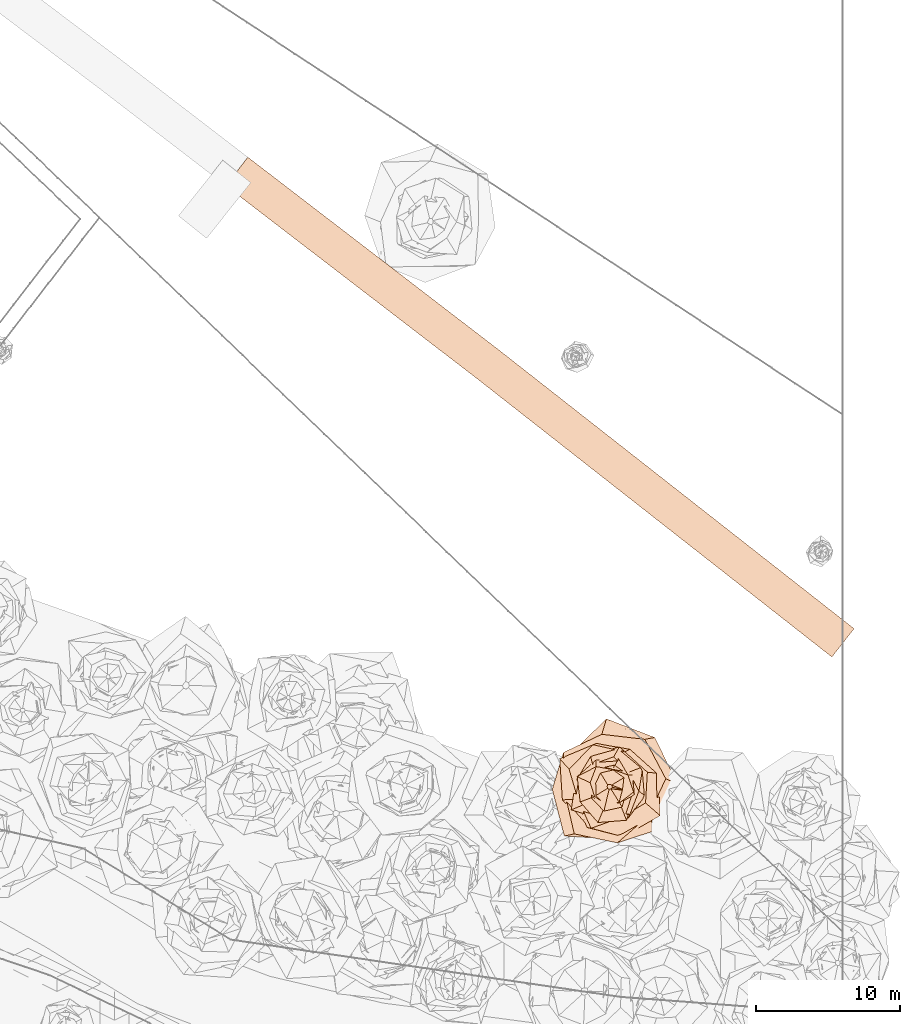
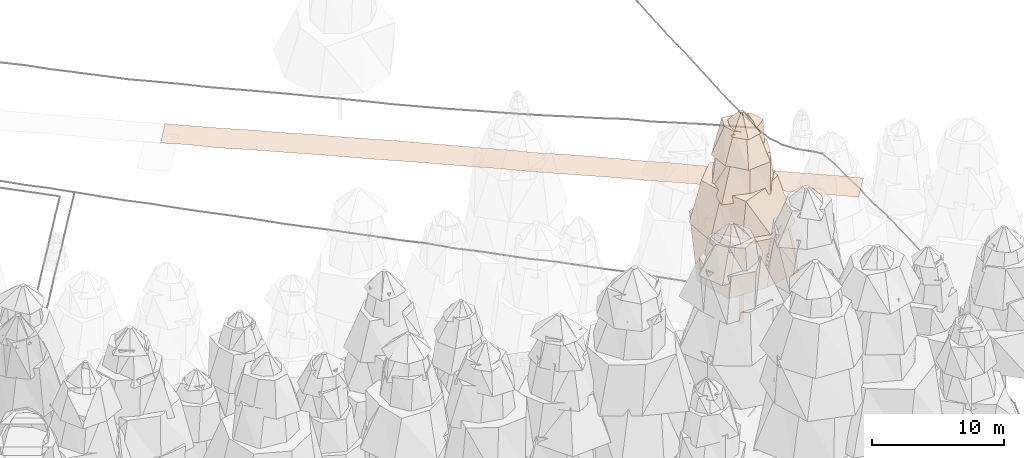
# Not in any storey, part 76 of 88: 2 geographic elements.
"""IFC4 model written with IfcOpenShell, lengths in metres."""

from ifc_helpers import new_model, si_unit, frame, origin_with_axes, place, context, subcontext, project, spatial, circle, extrude, faceted_brep, triangles, element, save


model = new_model("IFC4")

# Units and contexts
model_context = context("Model", 3, precision=1e-05, world=origin_with_axes())
body_context = subcontext(model_context, "Body", "Model", "MODEL_VIEW")
ifc_project = project(units=[si_unit("LENGTHUNIT", "METRE"), si_unit("AREAUNIT", "SQUARE_METRE"), si_unit("VOLUMEUNIT", "CUBIC_METRE"), si_unit("PLANEANGLEUNIT", "RADIAN")], contexts=[model_context])

# Sites
site_1_placement = place(None, origin_with_axes())
site_1 = spatial("IfcSite", under=ifc_project, at=site_1_placement, Name="CH907857693633", CompositionType="ELEMENT")
site_2_placement = place(None, origin_with_axes())
site_2 = spatial("IfcSite", under=site_1, at=site_2_placement, Name="Roads", CompositionType="ELEMENT")

# Geographic element
geographic_element_1_placement = place(None, origin_with_axes())
element("IfcGeographicElement", 1, at=geographic_element_1_placement, inside=site_2, Name="Road_weg", ObjectType="ROAD", PredefinedType="USERDEFINED", context=body_context, shape_type="Tessellation", body=[
    triangles([(237.728429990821, 96.1840462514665, 8.9857299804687), (236.089829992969, 97.4696131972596, 9.00214843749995), (234.451229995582, 98.7551801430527, 8.99006347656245), (232.81262999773, 100.040747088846, 8.99360351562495), (231.174030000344, 101.326314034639, 8.98676757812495), (229.535430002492, 102.611880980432, 8.94660644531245), (227.89683000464, 103.897447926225, 8.9732788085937), (226.258230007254, 105.183014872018, 8.95942382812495), (224.619630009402, 106.468581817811, 8.93183593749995), (222.981030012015, 107.754148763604, 8.9586303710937), (221.342430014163, 109.039715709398, 8.9250610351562), (219.703830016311, 110.325282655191, 8.9051635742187), (218.065230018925, 111.610849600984, 8.8695190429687), (216.426630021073, 112.896416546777, 8.91279296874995), (214.788030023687, 114.18198349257, 8.8907592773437), (213.154637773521, 115.463486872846, 8.88874511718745), (211.415589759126, 116.799163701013, 8.90620117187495), (209.671589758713, 118.138663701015, 8.8864868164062), (207.927589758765, 119.478163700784, 8.87971191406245), (206.183589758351, 120.817663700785, 8.9089477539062), (204.439589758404, 122.157163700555, 8.89692382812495), (202.695589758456, 123.496663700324, 8.8869750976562), (200.951589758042, 124.836163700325, 8.89057617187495), (199.207589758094, 126.175663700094, 8.8365600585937), (197.463589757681, 127.515163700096, 8.9188354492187), (195.719589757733, 128.854663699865, 8.88752441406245), (239.271570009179, 98.1509521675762, 9.0196655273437), (237.632970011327, 99.4365191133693, 9.0581176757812), (235.994370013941, 100.722086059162, 9.0361450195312), (234.355770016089, 102.007653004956, 9.0286987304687), (232.717170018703, 103.293219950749, 9.03645019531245), (231.078570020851, 104.578786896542, 8.97480468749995), (229.439970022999, 105.864353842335, 8.95344238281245), (227.801370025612, 107.149920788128, 8.98395996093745), (226.16277002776, 108.435487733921, 8.94086914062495), (224.524170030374, 109.721054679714, 8.9681518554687), (222.885570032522, 111.006621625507, 8.97565917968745), (221.24697003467, 112.2921885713, 8.95454101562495), (219.608370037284, 113.577755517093, 8.89643554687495), (217.969770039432, 114.863322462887, 8.94538574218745), (216.331170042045, 116.14888940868, 8.9268920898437), (214.687362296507, 117.43851991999, 8.94758300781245), (212.938410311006, 118.781843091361, 8.94929199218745), (211.194410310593, 120.121343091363, 8.98566894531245), (209.450410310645, 121.460843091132, 8.96076660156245), (207.706410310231, 122.800343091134, 8.9528930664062), (205.962410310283, 124.139843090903, 8.97602539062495), (204.218410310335, 125.479343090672, 8.9266479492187), (202.474410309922, 126.818843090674, 8.95466308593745), (200.730410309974, 128.158343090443, 8.91169433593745), (198.986410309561, 129.497843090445, 8.90693359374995), (197.242410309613, 130.837343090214, 8.93891601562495)], [[1, 27, 2], [27, 28, 2], [2, 28, 3], [28, 29, 3], [3, 29, 4], [29, 30, 4], [4, 30, 5], [30, 31, 5], [5, 31, 6], [31, 32, 6], [6, 32, 7], [32, 33, 7], [7, 33, 8], [33, 34, 8], [8, 34, 9], [34, 35, 9], [9, 35, 10], [35, 36, 10], [10, 36, 11], [36, 37, 11], [11, 37, 12], [37, 38, 12], [12, 38, 13], [38, 39, 13], [13, 39, 14], [39, 40, 14], [14, 40, 15], [40, 41, 15], [15, 41, 16], [41, 42, 16], [16, 42, 17], [42, 43, 17], [17, 43, 18], [43, 44, 18], [18, 44, 19], [44, 45, 19], [19, 45, 20], [45, 46, 20], [20, 46, 21], [46, 47, 21], [21, 47, 22], [47, 48, 22], [22, 48, 23], [48, 49, 23], [23, 49, 24], [49, 50, 24], [24, 50, 25], [50, 51, 25], [25, 51, 26], [51, 52, 26]]),
])

# Site
site_3_placement = place(None, origin_with_axes())
site_3 = spatial("IfcSite", under=site_1, at=site_3_placement, Name="Simulated_forest", CompositionType="ELEMENT")

# Geographic element
geographic_element_2_placement = place(None, frame((222.305373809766, 87.180658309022, 8.31231689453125), z_axis=(0.0, 0.0, 1.0), x_axis=(1.0, 0.0, 0.0)))
element("IfcGeographicElement", 2, at=geographic_element_2_placement, inside=site_3, Name="Tree_SIMULATED_FOREST_DENSE", ObjectType="VEGETATION", PredefinedType="USERDEFINED", context=body_context, shape_type="Brep", body=[
    extrude(circle(Radius=0.15), origin_with_axes(), (0.0, 0.0, 1.0), 5.32287014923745),
    faceted_brep([(3.26571838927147, -2.99377100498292, 5.32287014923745), (0.156544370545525, -3.60322578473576, 5.32287014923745), (-3.12080051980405, -3.40428697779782, 5.32287014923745), (-3.95748840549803, -0.171935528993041, 5.32287014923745), (-2.59970980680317, 2.38322320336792, 5.32287014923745), (-0.204901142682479, 4.71626720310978, 5.32287014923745), (3.14154956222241, 3.426920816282, 5.32287014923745), (4.73573496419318, 0.205746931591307, 5.32287014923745), (3.91147888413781, 0.564855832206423, 9.90957071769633), (2.46524709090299, 3.2974347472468, 9.90957071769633), (-0.526496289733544, 3.64584908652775, 9.90957071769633), (-3.18975080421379, 2.3847398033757, 9.90957071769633), (-3.08132167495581, -0.444973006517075, 9.90957071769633), (-2.43489590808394, -3.25683798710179, 9.90957071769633), (0.560045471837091, -3.87816839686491, 9.90957071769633), (2.6952781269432, -2.01505930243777, 9.90957071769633), (4.73573496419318, 0.205746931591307, 5.32287014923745), (3.14154956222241, 3.426920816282, 5.32287014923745), (2.46524709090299, 3.2974347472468, 9.90957071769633), (3.91147888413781, 0.564855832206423, 9.90957071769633), (3.14154956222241, 3.426920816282, 5.32287014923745), (-0.204901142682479, 4.71626720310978, 5.32287014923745), (-0.526496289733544, 3.64584908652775, 9.90957071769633), (2.46524709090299, 3.2974347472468, 9.90957071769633), (-0.204901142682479, 4.71626720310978, 5.32287014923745), (-2.59970980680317, 2.38322320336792, 5.32287014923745), (-3.18975080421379, 2.3847398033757, 9.90957071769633), (-0.526496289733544, 3.64584908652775, 9.90957071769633), (-2.59970980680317, 2.38322320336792, 5.32287014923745), (-3.95748840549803, -0.171935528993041, 5.32287014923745), (-3.08132167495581, -0.444973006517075, 9.90957071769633), (-3.18975080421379, 2.3847398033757, 9.90957071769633), (-3.95748840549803, -0.171935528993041, 5.32287014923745), (-3.12080051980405, -3.40428697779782, 5.32287014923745), (-2.43489590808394, -3.25683798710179, 9.90957071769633), (-3.08132167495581, -0.444973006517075, 9.90957071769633), (-3.12080051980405, -3.40428697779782, 5.32287014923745), (0.156544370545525, -3.60322578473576, 5.32287014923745), (0.560045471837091, -3.87816839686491, 9.90957071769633), (-2.43489590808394, -3.25683798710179, 9.90957071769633), (0.156544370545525, -3.60322578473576, 5.32287014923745), (3.26571838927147, -2.99377100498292, 5.32287014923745), (2.6952781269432, -2.01505930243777, 9.90957071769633), (0.560045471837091, -3.87816839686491, 9.90957071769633), (3.26571838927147, -2.99377100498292, 5.32287014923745), (4.73573496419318, 0.205746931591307, 5.32287014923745), (3.91147888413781, 0.564855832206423, 9.90957071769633), (2.6952781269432, -2.01505930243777, 9.90957071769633)], [[[0, 1, 2, 3, 4, 5, 6, 7]], [[8, 9, 10, 11, 12, 13, 14, 15]], [[16, 17, 18, 19]], [[20, 21, 22, 23]], [[24, 25, 26, 27]], [[28, 29, 30, 31]], [[32, 33, 34, 35]], [[36, 37, 38, 39]], [[40, 41, 42, 43]], [[44, 45, 46, 47]]]),
    faceted_brep([(3.51434440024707, -1.99372183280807, 9.2215656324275), (0.953770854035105, -3.45479091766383, 9.2215656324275), (-1.59212502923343, -2.8064475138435, 9.2215656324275), (-3.25806203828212, -0.899459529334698, 9.2215656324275), (-3.4417931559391, 1.95256280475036, 9.2215656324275), (-0.839954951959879, 3.04252192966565, 9.2215656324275), (1.49851736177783, 2.64144476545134, 9.2215656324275), (3.40008099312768, 0.938666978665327, 9.2215656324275), (2.63293262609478, 1.01928710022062, 13.3330082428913), (1.07518484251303, 2.43350303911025, 13.3330082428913), (-1.13181493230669, 2.92360460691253, 13.3330082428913), (-2.79332195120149, 1.23416218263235, 13.3330082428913), (-2.18251528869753, -0.844917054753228, 13.3330082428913), (-1.2670612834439, -2.86778362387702, 13.3330082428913), (0.819387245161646, -2.11656893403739, 13.3330082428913), (2.5077740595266, -1.1079997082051, 13.3330082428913), (3.40008099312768, 0.938666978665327, 9.2215656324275), (1.49851736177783, 2.64144476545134, 9.2215656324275), (1.07518484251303, 2.43350303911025, 13.3330082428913), (2.63293262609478, 1.01928710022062, 13.3330082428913), (1.49851736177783, 2.64144476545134, 9.2215656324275), (-0.839954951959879, 3.04252192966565, 9.2215656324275), (-1.13181493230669, 2.92360460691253, 13.3330082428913), (1.07518484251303, 2.43350303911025, 13.3330082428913), (-0.839954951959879, 3.04252192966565, 9.2215656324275), (-3.4417931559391, 1.95256280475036, 9.2215656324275), (-2.79332195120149, 1.23416218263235, 13.3330082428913), (-1.13181493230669, 2.92360460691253, 13.3330082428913), (-3.4417931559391, 1.95256280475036, 9.2215656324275), (-3.25806203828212, -0.899459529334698, 9.2215656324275), (-2.18251528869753, -0.844917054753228, 13.3330082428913), (-2.79332195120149, 1.23416218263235, 13.3330082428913), (-3.25806203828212, -0.899459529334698, 9.2215656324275), (-1.59212502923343, -2.8064475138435, 9.2215656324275), (-1.2670612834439, -2.86778362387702, 13.3330082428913), (-2.18251528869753, -0.844917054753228, 13.3330082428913), (-1.59212502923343, -2.8064475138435, 9.2215656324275), (0.953770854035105, -3.45479091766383, 9.2215656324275), (0.819387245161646, -2.11656893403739, 13.3330082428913), (-1.2670612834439, -2.86778362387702, 13.3330082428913), (0.953770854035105, -3.45479091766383, 9.2215656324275), (3.51434440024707, -1.99372183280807, 9.2215656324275), (2.5077740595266, -1.1079997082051, 13.3330082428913), (0.819387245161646, -2.11656893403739, 13.3330082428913), (3.51434440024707, -1.99372183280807, 9.2215656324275), (3.40008099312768, 0.938666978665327, 9.2215656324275), (2.63293262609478, 1.01928710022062, 13.3330082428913), (2.5077740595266, -1.1079997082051, 13.3330082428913)], [[[0, 1, 2, 3, 4, 5, 6, 7]], [[8, 9, 10, 11, 12, 13, 14, 15]], [[16, 17, 18, 19]], [[20, 21, 22, 23]], [[24, 25, 26, 27]], [[28, 29, 30, 31]], [[32, 33, 34, 35]], [[36, 37, 38, 39]], [[40, 41, 42, 43]], [[44, 45, 46, 47]]]),
    faceted_brep([(2.4967771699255, -0.620625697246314, 12.7162918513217), (1.30351913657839, -2.16592015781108, 12.7162918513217), (-0.552824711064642, -2.22401380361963, 12.7162918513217), (-2.64795662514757, -1.59362390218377, 12.7162918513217), (-2.30967274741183, 0.574117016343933, 12.7162918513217), (-1.32870229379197, 2.20776435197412, 12.7162918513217), (0.688315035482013, 2.76909137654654, 12.7162918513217), (2.33048252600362, 1.40255796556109, 12.7162918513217), (1.36725480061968, 1.02173734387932, 16.3379449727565), (0.302016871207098, 2.08821846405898, 16.3379449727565), (-1.16752067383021, 1.56233718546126, 16.3379449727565), (-1.99060251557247, 0.287898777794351, 16.3379449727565), (-1.45708993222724, -1.0888703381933, 16.3379449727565), (-0.241493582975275, -1.66974565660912, 16.3379449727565), (1.42184245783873, -1.90266210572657, 16.3379449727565), (2.04232885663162, -0.295379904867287, 16.3379449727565), (2.33048252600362, 1.40255796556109, 12.7162918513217), (0.688315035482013, 2.76909137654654, 12.7162918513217), (0.302016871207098, 2.08821846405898, 16.3379449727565), (1.36725480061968, 1.02173734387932, 16.3379449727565), (0.688315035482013, 2.76909137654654, 12.7162918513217), (-1.32870229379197, 2.20776435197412, 12.7162918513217), (-1.16752067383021, 1.56233718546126, 16.3379449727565), (0.302016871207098, 2.08821846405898, 16.3379449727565), (-1.32870229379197, 2.20776435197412, 12.7162918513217), (-2.30967274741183, 0.574117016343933, 12.7162918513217), (-1.99060251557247, 0.287898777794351, 16.3379449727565), (-1.16752067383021, 1.56233718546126, 16.3379449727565), (-2.30967274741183, 0.574117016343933, 12.7162918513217), (-2.64795662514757, -1.59362390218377, 12.7162918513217), (-1.45708993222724, -1.0888703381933, 16.3379449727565), (-1.99060251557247, 0.287898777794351, 16.3379449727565), (-2.64795662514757, -1.59362390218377, 12.7162918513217), (-0.552824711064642, -2.22401380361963, 12.7162918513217), (-0.241493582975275, -1.66974565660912, 16.3379449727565), (-1.45708993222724, -1.0888703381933, 16.3379449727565), (-0.552824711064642, -2.22401380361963, 12.7162918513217), (1.30351913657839, -2.16592015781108, 12.7162918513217), (1.42184245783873, -1.90266210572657, 16.3379449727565), (-0.241493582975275, -1.66974565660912, 16.3379449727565), (1.30351913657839, -2.16592015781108, 12.7162918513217), (2.4967771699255, -0.620625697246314, 12.7162918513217), (2.04232885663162, -0.295379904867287, 16.3379449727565), (1.42184245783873, -1.90266210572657, 16.3379449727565), (2.4967771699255, -0.620625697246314, 12.7162918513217), (2.33048252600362, 1.40255796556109, 12.7162918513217), (1.36725480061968, 1.02173734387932, 16.3379449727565), (2.04232885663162, -0.295379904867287, 16.3379449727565)], [[[0, 1, 2, 3, 4, 5, 6, 7]], [[8, 9, 10, 11, 12, 13, 14, 15]], [[16, 17, 18, 19]], [[20, 21, 22, 23]], [[24, 25, 26, 27]], [[28, 29, 30, 31]], [[32, 33, 34, 35]], [[36, 37, 38, 39]], [[40, 41, 42, 43]], [[44, 45, 46, 47]]]),
    faceted_brep([(1.74256857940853, -0.559195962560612, 15.7946970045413), (1.18801456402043, -2.3107935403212, 15.7946970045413), (-0.792868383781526, -2.47073946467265, 15.7946970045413), (-2.02441796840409, -1.04078446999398, 15.7946970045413), (-2.23179888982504, 0.716191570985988, 15.7946970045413), (-0.949828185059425, 1.84749993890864, 15.7946970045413), (0.630004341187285, 1.96322191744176, 15.7946970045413), (1.61832231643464, 0.832004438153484, 15.7946970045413), (1.28632848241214, 0.833373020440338, 18.3551914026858), (0.256379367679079, 1.19978182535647, 18.3551914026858), (-0.911054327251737, 1.40623118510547, 18.3551914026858), (-1.33360468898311, 0.284975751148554, 18.3551914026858), (-1.02235717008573, -0.66235405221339, 18.3551914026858), (-0.256033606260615, -1.19816376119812, 18.3551914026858), (0.708945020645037, -1.0942712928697, 18.3551914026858), (1.67829587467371, -0.358632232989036, 18.3551914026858), (1.61832231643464, 0.832004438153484, 15.7946970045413), (0.630004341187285, 1.96322191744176, 15.7946970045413), (0.256379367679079, 1.19978182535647, 18.3551914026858), (1.28632848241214, 0.833373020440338, 18.3551914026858), (0.630004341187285, 1.96322191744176, 15.7946970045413), (-0.949828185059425, 1.84749993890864, 15.7946970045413), (-0.911054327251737, 1.40623118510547, 18.3551914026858), (0.256379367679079, 1.19978182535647, 18.3551914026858), (-0.949828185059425, 1.84749993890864, 15.7946970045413), (-2.23179888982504, 0.716191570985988, 15.7946970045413), (-1.33360468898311, 0.284975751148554, 18.3551914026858), (-0.911054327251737, 1.40623118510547, 18.3551914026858), (-2.23179888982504, 0.716191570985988, 15.7946970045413), (-2.02441796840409, -1.04078446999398, 15.7946970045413), (-1.02235717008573, -0.66235405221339, 18.3551914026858), (-1.33360468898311, 0.284975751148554, 18.3551914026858), (-2.02441796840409, -1.04078446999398, 15.7946970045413), (-0.792868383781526, -2.47073946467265, 15.7946970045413), (-0.256033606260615, -1.19816376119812, 18.3551914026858), (-1.02235717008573, -0.66235405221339, 18.3551914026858), (-0.792868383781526, -2.47073946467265, 15.7946970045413), (1.18801456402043, -2.3107935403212, 15.7946970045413), (0.708945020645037, -1.0942712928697, 18.3551914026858), (-0.256033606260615, -1.19816376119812, 18.3551914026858), (1.18801456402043, -2.3107935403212, 15.7946970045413), (1.74256857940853, -0.559195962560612, 15.7946970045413), (1.67829587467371, -0.358632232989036, 18.3551914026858), (0.708945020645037, -1.0942712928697, 18.3551914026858), (1.74256857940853, -0.559195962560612, 15.7946970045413), (1.61832231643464, 0.832004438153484, 15.7946970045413), (1.28632848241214, 0.833373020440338, 18.3551914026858), (1.67829587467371, -0.358632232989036, 18.3551914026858)], [[[0, 1, 2, 3, 4, 5, 6, 7]], [[8, 9, 10, 11, 12, 13, 14, 15]], [[16, 17, 18, 19]], [[20, 21, 22, 23]], [[24, 25, 26, 27]], [[28, 29, 30, 31]], [[32, 33, 34, 35]], [[36, 37, 38, 39]], [[40, 41, 42, 43]], [[44, 45, 46, 47]]]),
    faceted_brep([(1.17736019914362, -0.264686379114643, 17.9711172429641), (0.88445500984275, -1.39746017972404, 17.9711172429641), (-0.377066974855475, -1.67724402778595, 17.9711172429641), (-1.23179713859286, -0.779606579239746, 17.9711172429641), (-1.23627093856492, 0.277930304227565, 17.9711172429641), (-0.791144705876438, 1.25002765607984, 17.9711172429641), (0.340858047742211, 1.51618190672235, 17.9711172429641), (1.3104946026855, 0.829414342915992, 17.9711172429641), (0.162006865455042, 0.126844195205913, 19.4352823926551), (0.0217945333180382, 0.179035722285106, 19.4352823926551), (-0.133841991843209, 0.170944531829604, 19.4352823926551), (-0.151095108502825, 0.0183932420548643, 19.4352823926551), (-0.125781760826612, -0.0984815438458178, 19.4352823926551), (-0.020319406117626, -0.166917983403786, 19.4352823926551), (0.099915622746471, -0.127613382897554, 19.4352823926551), (0.211597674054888, -0.0257583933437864, 19.4352823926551), (1.3104946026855, 0.829414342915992, 17.9711172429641), (0.340858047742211, 1.51618190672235, 17.9711172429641), (0.0217945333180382, 0.179035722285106, 19.4352823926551), (0.162006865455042, 0.126844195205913, 19.4352823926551), (0.340858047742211, 1.51618190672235, 17.9711172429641), (-0.791144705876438, 1.25002765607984, 17.9711172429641), (-0.133841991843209, 0.170944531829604, 19.4352823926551), (0.0217945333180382, 0.179035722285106, 19.4352823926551), (-0.791144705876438, 1.25002765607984, 17.9711172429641), (-1.23627093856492, 0.277930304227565, 17.9711172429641), (-0.151095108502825, 0.0183932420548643, 19.4352823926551), (-0.133841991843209, 0.170944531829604, 19.4352823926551), (-1.23627093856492, 0.277930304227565, 17.9711172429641), (-1.23179713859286, -0.779606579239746, 17.9711172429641), (-0.125781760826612, -0.0984815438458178, 19.4352823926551), (-0.151095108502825, 0.0183932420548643, 19.4352823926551), (-1.23179713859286, -0.779606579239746, 17.9711172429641), (-0.377066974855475, -1.67724402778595, 17.9711172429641), (-0.020319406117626, -0.166917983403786, 19.4352823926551), (-0.125781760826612, -0.0984815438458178, 19.4352823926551), (-0.377066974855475, -1.67724402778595, 17.9711172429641), (0.88445500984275, -1.39746017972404, 17.9711172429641), (0.099915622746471, -0.127613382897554, 19.4352823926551), (-0.020319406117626, -0.166917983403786, 19.4352823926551), (0.88445500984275, -1.39746017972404, 17.9711172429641), (1.17736019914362, -0.264686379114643, 17.9711172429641), (0.211597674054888, -0.0257583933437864, 19.4352823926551), (0.099915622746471, -0.127613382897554, 19.4352823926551), (1.17736019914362, -0.264686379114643, 17.9711172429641), (1.3104946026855, 0.829414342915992, 17.9711172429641), (0.162006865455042, 0.126844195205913, 19.4352823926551), (0.211597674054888, -0.0257583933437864, 19.4352823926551)], [[[0, 1, 2, 3, 4, 5, 6, 7]], [[8, 9, 10, 11, 12, 13, 14, 15]], [[16, 17, 18, 19]], [[20, 21, 22, 23]], [[24, 25, 26, 27]], [[28, 29, 30, 31]], [[32, 33, 34, 35]], [[36, 37, 38, 39]], [[40, 41, 42, 43]], [[44, 45, 46, 47]]]),
])

save(model, "model.ifc")
